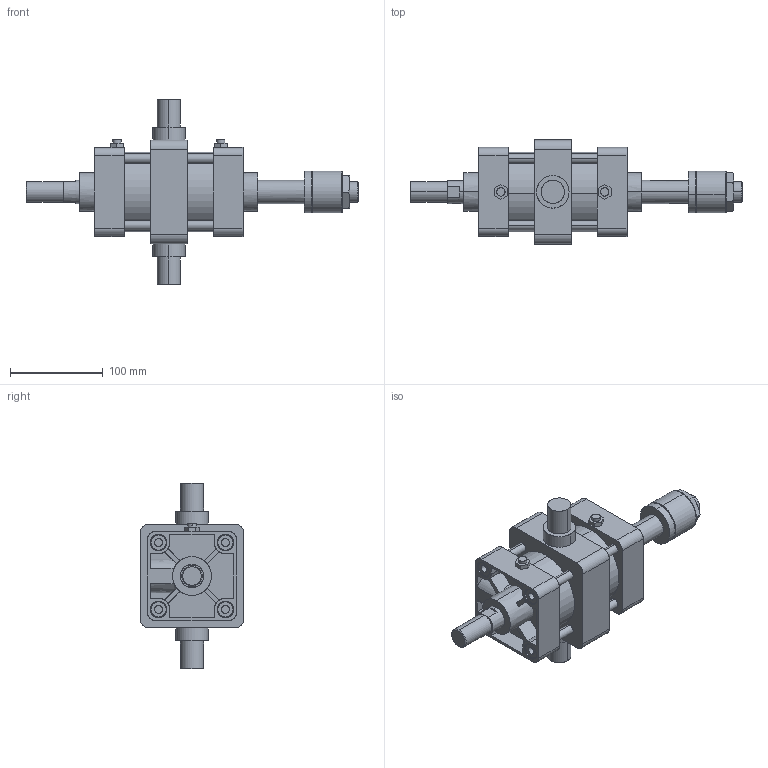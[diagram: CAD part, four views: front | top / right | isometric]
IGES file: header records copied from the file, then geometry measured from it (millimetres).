
Start section: SolidWorks IGES file using analytic representation for surfaces
Global section: file name: C:\Users\Toshiba\Desktop\KGA7-80#-50-T.IGS; native system: SolidWorks 2014; preprocessor: SolidWorks 2014; author: Toshiba; date: 160414.155426; units: millimetre
Bounding box: 358 x 112 x 200 mm (x, y, z)
Surface area: 248479.5 mm2 (no closed solid volume)
Topology: 0 solids, 0 shells, 393 faces, 6838 edges, 6834 vertices
Faces by surface type: bspline 209, revolution 184
